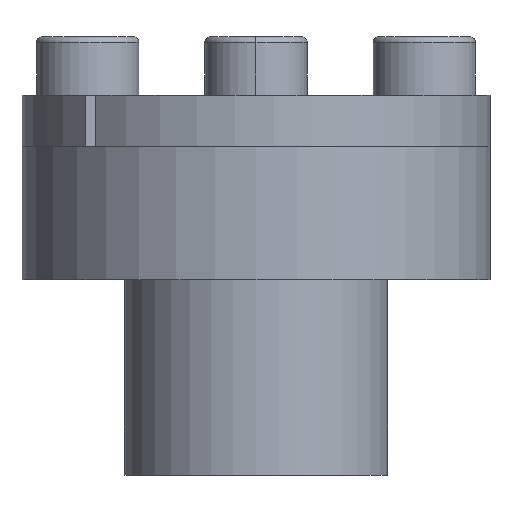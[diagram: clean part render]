
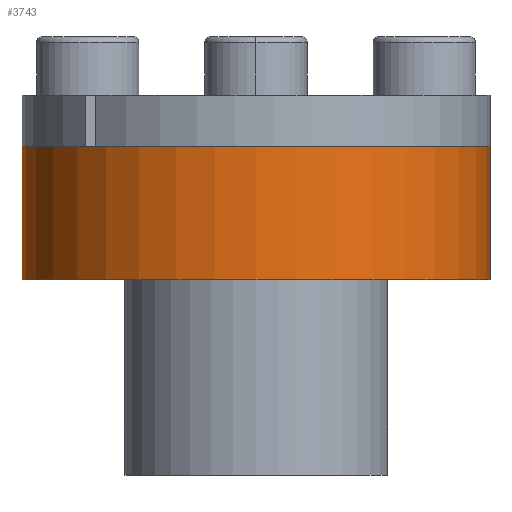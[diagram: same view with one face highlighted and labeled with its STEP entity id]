
A CAD part, front view. The second image highlights one B-rep face of the part: STEP entity #3743.
In plain terms, the highlighted cylindrical face has radius 16 mm (diameter 32 mm), a partial arc.
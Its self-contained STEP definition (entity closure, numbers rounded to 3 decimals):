
#130 = EDGE_CURVE ( 'NONE', #2406, #5434, #2713, .T. ) ;
#134 = CARTESIAN_POINT ( 'NONE',  ( 0., 0., 2.482 ) ) ;
#235 = EDGE_LOOP ( 'NONE', ( #2599, #3574, #3516, #4221 ) ) ;
#283 = VERTEX_POINT ( 'NONE', #1158 ) ;
#718 = CARTESIAN_POINT ( 'NONE',  ( 0., 0., -6.618 ) ) ;
#1158 = CARTESIAN_POINT ( 'NONE',  ( -16., 0., -6.618 ) ) ;
#1335 = DIRECTION ( 'NONE',  ( 1., 0., 0. ) ) ;
#1527 = VECTOR ( 'NONE', #2911, 1000. ) ;
#2054 = CYLINDRICAL_SURFACE ( 'NONE', #5588, 16. ) ;
#2406 = VERTEX_POINT ( 'NONE', #3691 ) ;
#2501 = CARTESIAN_POINT ( 'NONE',  ( 16., 0., 2.482 ) ) ;
#2538 = CARTESIAN_POINT ( 'NONE',  ( 16., 0., 2.482 ) ) ;
#2599 = ORIENTED_EDGE ( 'NONE', *, *, #6873, .F. ) ;
#2713 = CIRCLE ( 'NONE', #6223, 16. ) ;
#2813 = FACE_OUTER_BOUND ( 'NONE', #235, .T. ) ;
#2911 = DIRECTION ( 'NONE',  ( 0., 0., -1. ) ) ;
#3217 = DIRECTION ( 'NONE',  ( 0., 0., -1. ) ) ;
#3516 = ORIENTED_EDGE ( 'NONE', *, *, #7746, .T. ) ;
#3565 = LINE ( 'NONE', #2501, #6773 ) ;
#3574 = ORIENTED_EDGE ( 'NONE', *, *, #130, .F. ) ;
#3691 = CARTESIAN_POINT ( 'NONE',  ( -16., 0., 2.482 ) ) ;
#3743 = ADVANCED_FACE ( 'NONE', ( #2813 ), #2054, .T. ) ;
#4221 = ORIENTED_EDGE ( 'NONE', *, *, #7460, .T. ) ;
#4352 = CARTESIAN_POINT ( 'NONE',  ( 16., 0., -6.618 ) ) ;
#4665 = AXIS2_PLACEMENT_3D ( 'NONE', #718, #4967, #1335 ) ;
#4752 = LINE ( 'NONE', #6524, #1527 ) ;
#4963 = DIRECTION ( 'NONE',  ( 1., 0., 0. ) ) ;
#4967 = DIRECTION ( 'NONE',  ( 0., 0., 1. ) ) ;
#4981 = DIRECTION ( 'NONE',  ( 0., 0., 1. ) ) ;
#4988 = CARTESIAN_POINT ( 'NONE',  ( 0., 0., 2.482 ) ) ;
#5434 = VERTEX_POINT ( 'NONE', #2538 ) ;
#5588 = AXIS2_PLACEMENT_3D ( 'NONE', #134, #3217, #7445 ) ;
#6223 = AXIS2_PLACEMENT_3D ( 'NONE', #4988, #4981, #4963 ) ;
#6524 = CARTESIAN_POINT ( 'NONE',  ( -16., 0., 2.482 ) ) ;
#6571 = VERTEX_POINT ( 'NONE', #4352 ) ;
#6724 = DIRECTION ( 'NONE',  ( 0., 0., -1. ) ) ;
#6773 = VECTOR ( 'NONE', #6724, 1000. ) ;
#6873 = EDGE_CURVE ( 'NONE', #5434, #6571, #3565, .T. ) ;
#7032 = CIRCLE ( 'NONE', #4665, 16. ) ;
#7445 = DIRECTION ( 'NONE',  ( -1., 0., 0. ) ) ;
#7460 = EDGE_CURVE ( 'NONE', #283, #6571, #7032, .T. ) ;
#7746 = EDGE_CURVE ( 'NONE', #2406, #283, #4752, .T. ) ;
